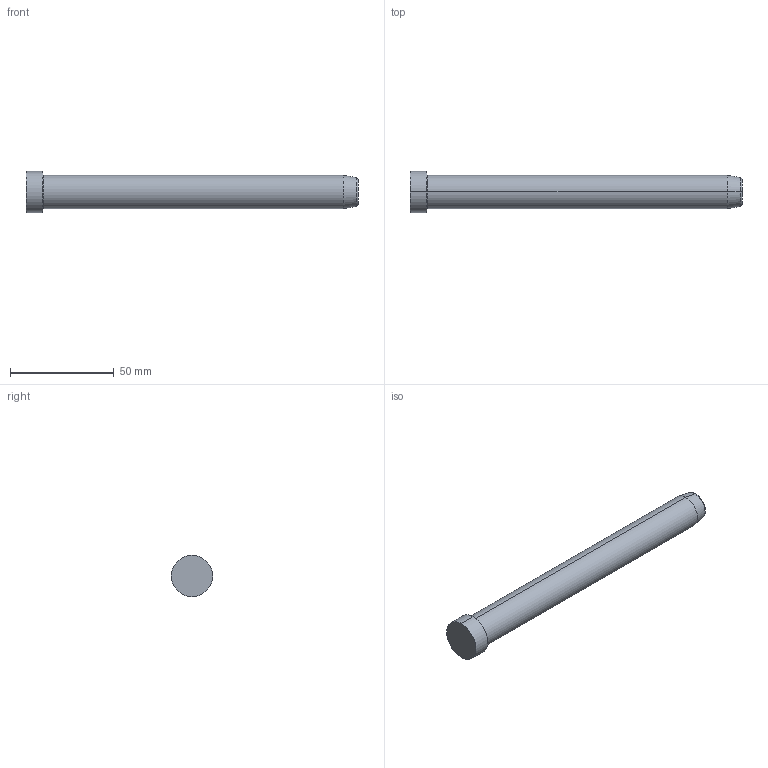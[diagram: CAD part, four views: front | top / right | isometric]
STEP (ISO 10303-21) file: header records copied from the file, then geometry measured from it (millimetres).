
FILE_DESCRIPTION( ( 'STEP AP203' ), '1' );
FILE_NAME( 'D:/Delta 3 D/D01D/16/D01D - 16x160.step', '2003-01-02T23:17:31', ( ' ' ), ( ' ' ), 'XStep 1.0', ' ', ' ' );
FILE_SCHEMA( ( 'CONFIG_CONTROL_DESIGN' ) );
Length unit declared in the file: metre
Products named in the file (1): 1
Bounding box: 160 x 20 x 20 mm (x, y, z)
Volume: 32856.7 mm3; surface area: 8703.6 mm2
Topology: 1 solids, 1 shells, 14 faces, 26 edges, 16 vertices
Faces by surface type: revolution 8, bspline 6
Entity records: 437 total; most frequent: CARTESIAN_POINT 121, ORIENTED_EDGE 52, DIRECTION 50, EDGE_CURVE 26, AXIS2_PLACEMENT_3D 17, EDGE_LOOP 16, VERTEX_POINT 16, CIRCLE 16
